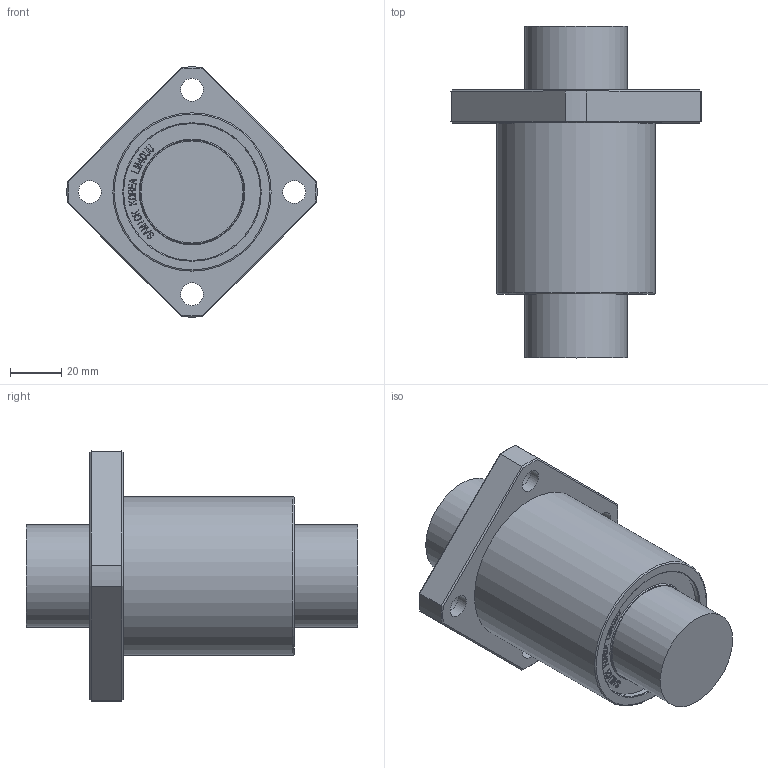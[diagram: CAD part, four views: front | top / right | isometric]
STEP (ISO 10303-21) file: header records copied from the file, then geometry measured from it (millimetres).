
FILE_DESCRIPTION(/* description */ (''),/* implementation_level */ '2;1');
FILE_NAME(/* name */ 'W:\(01) 2024년 홈페이지 CAD파일 최신화\LMEK\IPT\LMEK40UU.stp',/* time_stamp */ '2025-01-25T10:46:10+09:00',/* author */ ('서우현'),/* organization */ (''),/* preprocessor_version */ 'ST-DEVELOPER v17.2',/* originating_system */ 'Autodesk Inventor 2019',/* authorisation */ '');
FILE_SCHEMA (('AUTOMOTIVE_DESIGN { 1 0 10303 214 3 1 1 }'));
Length unit declared in the file: millimetre
Products named in the file (1): LM5
Bounding box: 97.96 x 130 x 97.96 mm (x, y, z)
Volume: 326292.6 mm3; surface area: 36901.3 mm2
Topology: 1 solids, 1 shells, 858 faces, 2402 edges, 1604 vertices
Faces by surface type: bspline 572, plane 254, cylinder 18, cone 12, torus 2
Full cylindrical faces by diameter (mm): 9 x4, 14 x4, 40 x2, 53.65 x2, 62 x2
Entity records: 29364 total; most frequent: CARTESIAN_POINT 10729, ORIENTED_EDGE 4804, EDGE_CURVE 2402, DIRECTION 1898, VERTEX_POINT 1604, LINE 1160, VECTOR 1160, B_SPLINE_CURVE_WITH_KNOTS 1144
